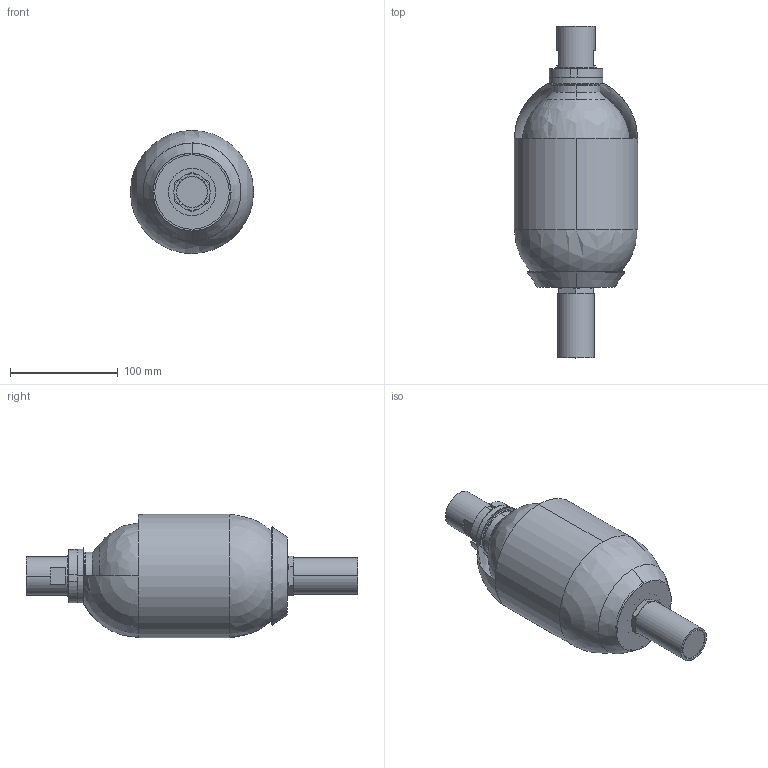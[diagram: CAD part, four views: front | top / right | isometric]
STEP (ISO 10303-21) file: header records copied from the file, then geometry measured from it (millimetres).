
FILE_DESCRIPTION((''),'2;1');
FILE_NAME('EHV_1_350_90.stp','2012-10-05T11:41:47',(''),(''),'Mechanical Desktop 2009','Mechanical Desktop 2009',', , ');
FILE_SCHEMA(('CONFIG_CONTROL_DESIGN'));
Length unit declared in the file: millimetre
Products named in the file (17): AD108456-01125; EC102958-00200; EC102958-00200A; BP102851-00200; BOUCHON DE PROTECTION; BOUCHON PLASTIQUE; PF108610-05200; PF108610-05200A; PF108368-05200|AVE_RENDER; PF108368-05200|AVE_GLOBAL; BC108642-00220; BE100067-00200; BM108641-00200; CB108640-00200; EC100985-00200; CA108639-00190; CA108639-00190A
Assembly tree (23 placements, depth 4):
  AD108456-01125
    EC102958-00200
      EC102958-00200A
    BP102851-00200
      BOUCHON DE PROTECTION
      BOUCHON PLASTIQUE
    PF108610-05200
      PF108610-05200A
      PF108368-05200|AVE_RENDER  x8
      PF108368-05200|AVE_GLOBAL
    BC108642-00220
      BE100067-00200
      BM108641-00200
        CB108640-00200
      EC100985-00200
    CA108639-00190
      CA108639-00190A
Bounding box: 114.3 x 308.2 x 114.3 mm (x, y, z)
Volume: 380979.8 mm3; surface area: 208855 mm2
Topology: 8 solids, 8 shells, 206 faces, 485 edges, 299 vertices
Faces by surface type: cylinder 78, plane 54, cone 46, bspline 19, torus 6, sphere 3
Entity records: 7017 total; most frequent: CARTESIAN_POINT 1818, DIRECTION 1160, ORIENTED_EDGE 938, AXIS2_PLACEMENT_3D 492, EDGE_CURVE 469, VERTEX_POINT 295, CIRCLE 281, EDGE_LOOP 252
